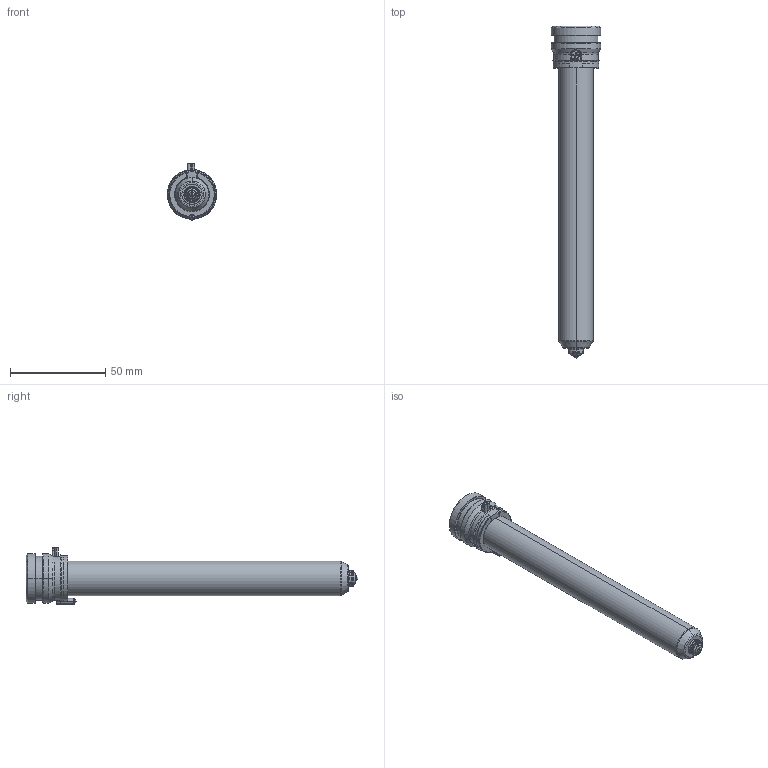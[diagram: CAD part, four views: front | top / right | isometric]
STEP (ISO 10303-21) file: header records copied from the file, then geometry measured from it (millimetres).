
FILE_DESCRIPTION((''),'2;1');
FILE_NAME('TH18156-A-1GLT-PK-JG','2023-12-14T',('umhib'),('Thermoplay S.p.A.'),'PRO/ENGINEER BY PARAMETRIC TECHNOLOGY CORPORATION, 2017170','PRO/ENGINEER BY PARAMETRIC TECHNOLOGY CORPORATION, 2017170','');
FILE_SCHEMA(('CONFIG_CONTROL_DESIGN'));
Length unit declared in the file: millimetre
Products named in the file (1): TH18156-A-1GLT-PK-JG
Bounding box: 26 x 174 x 29.5 mm (x, y, z)
Volume: 34925.4 mm3; surface area: 25615.7 mm2
Topology: 1 solids, 2 shells, 418 faces, 1085 edges, 675 vertices
Faces by surface type: cylinder 162, plane 90, cone 68, torus 62, bspline 24, sphere 10, extrusion 2
Entity records: 18142 total; most frequent: CARTESIAN_POINT 5862, DIRECTION 2187, ORIENTED_EDGE 2146, EDGE_CURVE 1075, AXIS2_PLACEMENT_3D 886, VERTEX_POINT 675, CIRCLE 493, EDGE_LOOP 443
